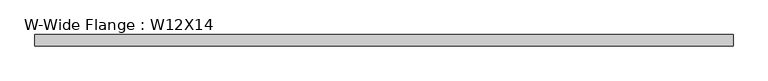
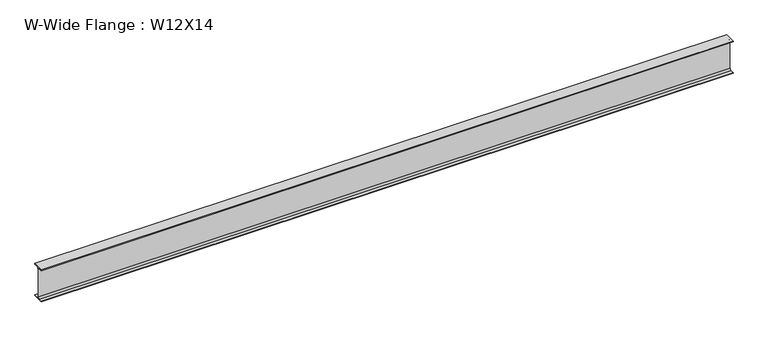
"""IFC4 building model written with IfcOpenShell, lengths in millimetres: beam geometry, W-Wide Flange : W12X14."""

from ifc_helpers import new_model, si_unit, point, frame, frame_2d, origin, place, context, project, spatial, polyline, circle_curve, trimmed, segment, composite_curve, outline, extrude, source, transform, mapped, element, save


def w_wide_flange_w12x14_3777ec73(model_context):
    return source(origin(), model_context, "Body", "SweptSolid", [
        extrude(outline(composite_curve([segment(polyline([(50.419, -145.415), (50.419, -151.13), (-50.419, -151.13), (-50.419, -145.415), (-15.875, -145.415)]), True, "CONTINUOUS"), segment(trimmed(circle_curve(frame_2d((-15.875, -132.08)), 13.335), [point((-15.875, -145.415))], [point((-2.54, -132.08))], True, "CARTESIAN"), True, "CONTINUOUS"), segment(polyline([(-2.54, -132.08), (-2.54, 132.08)]), True, "CONTINUOUS"), segment(trimmed(circle_curve(frame_2d((-15.875, 132.08)), 13.335), [point((-2.54, 132.08))], [point((-15.875, 145.415))], True, "CARTESIAN"), True, "CONTINUOUS"), segment(polyline([(-15.875, 145.415), (-50.419, 145.415), (-50.419, 151.13), (50.419, 151.13), (50.419, 145.415), (15.875, 145.415)]), True, "CONTINUOUS"), segment(trimmed(circle_curve(frame_2d((15.875, 132.08)), 13.335), [point((15.875, 145.415))], [point((2.54, 132.08))], True, "CARTESIAN"), True, "CONTINUOUS"), segment(polyline([(2.54, 132.08), (2.54, -132.08)]), True, "CONTINUOUS"), segment(trimmed(circle_curve(frame_2d((15.875, -132.08)), 13.335), [point((2.54, -132.08))], [point((15.875, -145.415))], True, "CARTESIAN"), True, "CONTINUOUS"), segment(polyline([(15.875, -145.415), (50.419, -145.415)]), True, "CONTINUOUS")], self_intersect=False)), frame((-3212.30625, 0.0, 0.0), z_axis=(1.0, 0.0, 0.0), x_axis=(0.0, 1.0, 0.0)), (0.0, 0.0, 1.0), 6176.9625),
    ])


if __name__ == "__main__":
    model = new_model("IFC4")
    model_context = context("Model", 3, world=origin())
    ifc_project = project(units=[si_unit("LENGTHUNIT", "METRE", prefix="MILLI")], contexts=[model_context])
    site = spatial("IfcSite", under=ifc_project)
    building = spatial("IfcBuilding", under=site)
    placement = place(None, origin())
    w_wide_flange_w12x14_shape = w_wide_flange_w12x14_3777ec73(model_context)
    element("IfcBeam", 1, ObjectType="W-Wide Flange : W12X14", at=placement, inside=building, context=model_context, shape_type="MappedRepresentation", body=[
        mapped(w_wide_flange_w12x14_shape, transform((0.0, 0.0, 0.0), x_axis=(1.0, 0.0, 0.0), y_axis=(0.0, 1.0, 0.0), z_axis=(0.0, 0.0, 1.0))),
    ])
    save(model, "model.ifc")
